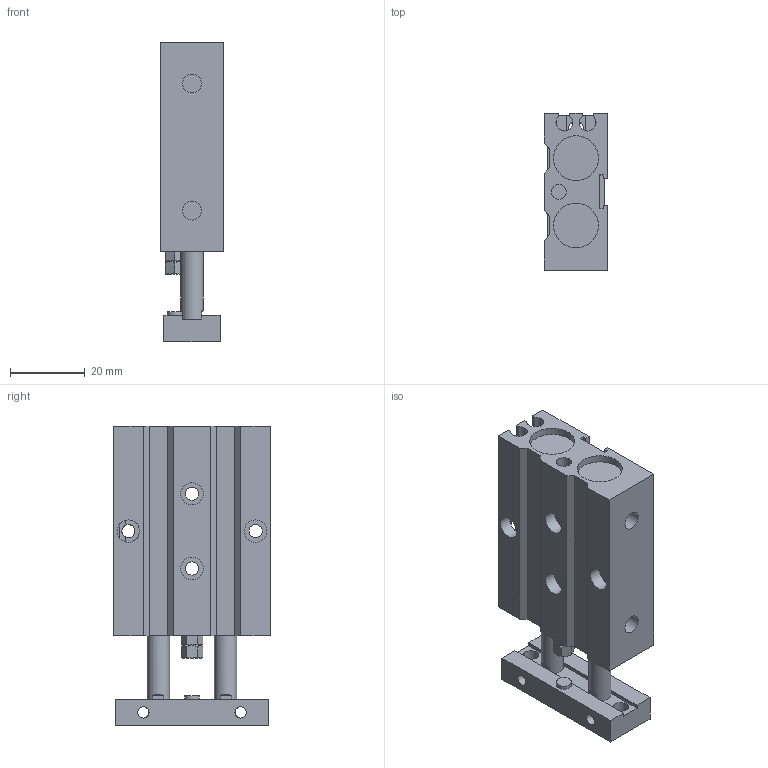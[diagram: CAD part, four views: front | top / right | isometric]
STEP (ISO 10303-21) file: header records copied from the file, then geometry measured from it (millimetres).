
FILE_DESCRIPTION((''),'2;1');
FILE_NAME('I:\3D電子目錄\氣缸\TD\TD10\TD10\TD10X10.stp','2007-08-06T09:33:52',('Administrator'),(''),'Autodesk Inventor 2008','Autodesk Inventor 2008','');
FILE_SCHEMA(('AUTOMOTIVE_DESIGN { 1 0 10303 214 1 1 1 1 }'));
Length unit declared in the file: millimetre
Products named in the file (1): TD10X10
Bounding box: 17 x 42 x 80 mm (x, y, z)
Volume: 38408.2 mm3; surface area: 14501.8 mm2
Topology: 1 solids, 3 shells, 149 faces, 371 edges, 242 vertices
Faces by surface type: plane 97, cylinder 30, bspline 13, cone 7, torus 2
Full cylindrical faces by diameter (mm): 3 x2, 3.5 x4, 4 x2, 4.011 x2, 5 x4, 6 x8, 7 x2, 12 x4
Entity records: 4462 total; most frequent: CARTESIAN_POINT 1123, DIRECTION 646, ORIENTED_EDGE 636, EDGE_CURVE 318, VERTEX_POINT 230, EDGE_LOOP 230, AXIS2_PLACEMENT_3D 221, VECTOR 204
